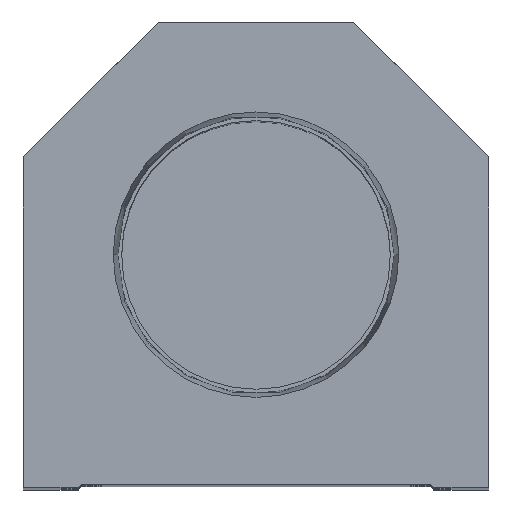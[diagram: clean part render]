
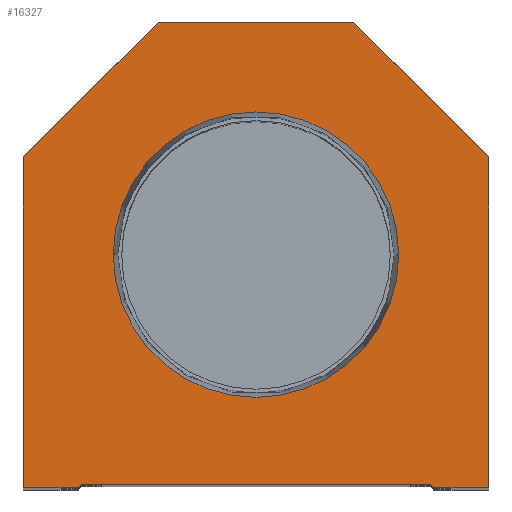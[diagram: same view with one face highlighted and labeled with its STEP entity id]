
A CAD part, top view. The second image highlights one B-rep face of the part: STEP entity #16327.
In plain terms, the highlighted planar face has unit normal (0, 0, 1).
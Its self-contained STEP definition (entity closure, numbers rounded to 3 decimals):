
#565 = VECTOR ( 'NONE', #6724, 1000. ) ;
#571 = CARTESIAN_POINT ( 'NONE',  ( 16., 76.2, 0. ) ) ;
#836 = VERTEX_POINT ( 'NONE', #12668 ) ;
#1529 = PLANE ( 'NONE',  #17201 ) ;
#1731 = CARTESIAN_POINT ( 'NONE',  ( -23.374, 38.1, 0. ) ) ;
#1786 = CIRCLE ( 'NONE', #12279, 23.374 ) ;
#2023 = LINE ( 'NONE', #14274, #6292 ) ;
#2061 = VERTEX_POINT ( 'NONE', #3833 ) ;
#2229 = VECTOR ( 'NONE', #13059, 1000. ) ;
#2346 = EDGE_LOOP ( 'NONE', ( #11622, #8113, #19378, #14553, #8327, #17522, #16108, #6403, #12184, #7951 ) ) ;
#2375 = CARTESIAN_POINT ( 'NONE',  ( -38.1, 0., 0. ) ) ;
#2903 = DIRECTION ( 'NONE',  ( -0.707, 0.707, 0. ) ) ;
#3142 = EDGE_LOOP ( 'NONE', ( #16844, #6453 ) ) ;
#3491 = CARTESIAN_POINT ( 'NONE',  ( 29.1, 0., 0. ) ) ;
#3510 = VERTEX_POINT ( 'NONE', #5880 ) ;
#3833 = CARTESIAN_POINT ( 'NONE',  ( -29.1, 0., 0. ) ) ;
#4896 = VERTEX_POINT ( 'NONE', #14925 ) ;
#5055 = DIRECTION ( 'NONE',  ( 1., 0., 0. ) ) ;
#5122 = CARTESIAN_POINT ( 'NONE',  ( -28.6, 0.5, 0. ) ) ;
#5644 = CARTESIAN_POINT ( 'NONE',  ( 38.1, 0., 0. ) ) ;
#5665 = CARTESIAN_POINT ( 'NONE',  ( 16., 76.2, 0. ) ) ;
#5779 = EDGE_CURVE ( 'NONE', #16320, #16530, #1786, .T. ) ;
#5828 = LINE ( 'NONE', #7424, #8470 ) ;
#5880 = CARTESIAN_POINT ( 'NONE',  ( -16., 76.2, 0. ) ) ;
#6292 = VECTOR ( 'NONE', #12874, 1000. ) ;
#6368 = DIRECTION ( 'NONE',  ( 0., 0., 1. ) ) ;
#6403 = ORIENTED_EDGE ( 'NONE', *, *, #12240, .T. ) ;
#6453 = ORIENTED_EDGE ( 'NONE', *, *, #5779, .F. ) ;
#6594 = VECTOR ( 'NONE', #14675, 1000. ) ;
#6668 = EDGE_CURVE ( 'NONE', #3510, #12435, #16423, .T. ) ;
#6724 = DIRECTION ( 'NONE',  ( -1., 0., 0. ) ) ;
#6740 = VECTOR ( 'NONE', #2903, 1000. ) ;
#6821 = LINE ( 'NONE', #571, #565 ) ;
#7424 = CARTESIAN_POINT ( 'NONE',  ( 28.6, 0., 0. ) ) ;
#7517 = CARTESIAN_POINT ( 'NONE',  ( 38.1, 54.1, 0. ) ) ;
#7833 = CARTESIAN_POINT ( 'NONE',  ( 0., 38.1, 0. ) ) ;
#7951 = ORIENTED_EDGE ( 'NONE', *, *, #19575, .T. ) ;
#8113 = ORIENTED_EDGE ( 'NONE', *, *, #13406, .T. ) ;
#8155 = VERTEX_POINT ( 'NONE', #5665 ) ;
#8327 = ORIENTED_EDGE ( 'NONE', *, *, #8757, .T. ) ;
#8470 = VECTOR ( 'NONE', #13452, 1000. ) ;
#8757 = EDGE_CURVE ( 'NONE', #18947, #4896, #5828, .T. ) ;
#9283 = EDGE_CURVE ( 'NONE', #4896, #19869, #17799, .T. ) ;
#9705 = LINE ( 'NONE', #5122, #12663 ) ;
#9880 = LINE ( 'NONE', #13008, #19778 ) ;
#9929 = EDGE_CURVE ( 'NONE', #836, #18947, #2023, .T. ) ;
#10482 = EDGE_CURVE ( 'NONE', #15908, #2061, #9880, .T. ) ;
#10864 = DIRECTION ( 'NONE',  ( 0., 0., 1. ) ) ;
#11384 = DIRECTION ( 'NONE',  ( 0.707, 0.707, 0. ) ) ;
#11622 = ORIENTED_EDGE ( 'NONE', *, *, #10482, .T. ) ;
#11882 = CARTESIAN_POINT ( 'NONE',  ( -38.1, 54.1, 0. ) ) ;
#11972 = CARTESIAN_POINT ( 'NONE',  ( 0., 38.1, 0. ) ) ;
#12184 = ORIENTED_EDGE ( 'NONE', *, *, #6668, .T. ) ;
#12240 = EDGE_CURVE ( 'NONE', #8155, #3510, #6821, .T. ) ;
#12279 = AXIS2_PLACEMENT_3D ( 'NONE', #7833, #6368, #5055 ) ;
#12333 = CARTESIAN_POINT ( 'NONE',  ( 38.1, 54.1, 0. ) ) ;
#12372 = FACE_BOUND ( 'NONE', #3142, .T. ) ;
#12435 = VERTEX_POINT ( 'NONE', #12815 ) ;
#12466 = DIRECTION ( 'NONE',  ( 1., 0., 0. ) ) ;
#12663 = VECTOR ( 'NONE', #12945, 1000. ) ;
#12668 = CARTESIAN_POINT ( 'NONE',  ( 28.6, 0.5, 0. ) ) ;
#12815 = CARTESIAN_POINT ( 'NONE',  ( -38.1, 54.1, 0. ) ) ;
#12874 = DIRECTION ( 'NONE',  ( 0.707, -0.707, 0. ) ) ;
#12899 = CARTESIAN_POINT ( 'NONE',  ( -14.55, 14.55, 0. ) ) ;
#12945 = DIRECTION ( 'NONE',  ( 1., 0., 0. ) ) ;
#13008 = CARTESIAN_POINT ( 'NONE',  ( -28.6, 0., 0. ) ) ;
#13059 = DIRECTION ( 'NONE',  ( 0., -1., 0. ) ) ;
#13162 = CARTESIAN_POINT ( 'NONE',  ( -38.1, 0., 0. ) ) ;
#13202 = CARTESIAN_POINT ( 'NONE',  ( -28.6, 0.5, 0. ) ) ;
#13406 = EDGE_CURVE ( 'NONE', #2061, #18017, #19334, .T. ) ;
#13452 = DIRECTION ( 'NONE',  ( 1., 0., 0. ) ) ;
#13625 = CIRCLE ( 'NONE', #13931, 23.374 ) ;
#13931 = AXIS2_PLACEMENT_3D ( 'NONE', #11972, #19519, #15096 ) ;
#14274 = CARTESIAN_POINT ( 'NONE',  ( 14.55, 14.55, 0. ) ) ;
#14553 = ORIENTED_EDGE ( 'NONE', *, *, #9929, .T. ) ;
#14675 = DIRECTION ( 'NONE',  ( 0., 1., 0. ) ) ;
#14821 = EDGE_CURVE ( 'NONE', #16530, #16320, #13625, .T. ) ;
#14893 = CARTESIAN_POINT ( 'NONE',  ( 23.374, 38.1, 0. ) ) ;
#14925 = CARTESIAN_POINT ( 'NONE',  ( 38.1, 0., 0. ) ) ;
#15096 = DIRECTION ( 'NONE',  ( 1., 0., 0. ) ) ;
#15122 = EDGE_CURVE ( 'NONE', #18017, #836, #9705, .T. ) ;
#15908 = VERTEX_POINT ( 'NONE', #2375 ) ;
#16108 = ORIENTED_EDGE ( 'NONE', *, *, #19841, .T. ) ;
#16320 = VERTEX_POINT ( 'NONE', #1731 ) ;
#16327 = ADVANCED_FACE ( 'NONE', ( #12372, #19897 ), #1529, .T. ) ;
#16423 = LINE ( 'NONE', #11882, #19359 ) ;
#16530 = VERTEX_POINT ( 'NONE', #14893 ) ;
#16767 = LINE ( 'NONE', #7517, #6740 ) ;
#16786 = DIRECTION ( 'NONE',  ( -0.707, -0.707, 0. ) ) ;
#16844 = ORIENTED_EDGE ( 'NONE', *, *, #14821, .F. ) ;
#17001 = VECTOR ( 'NONE', #11384, 1000. ) ;
#17201 = AXIS2_PLACEMENT_3D ( 'NONE', #18529, #10864, #12466 ) ;
#17522 = ORIENTED_EDGE ( 'NONE', *, *, #9283, .T. ) ;
#17792 = LINE ( 'NONE', #13162, #2229 ) ;
#17799 = LINE ( 'NONE', #5644, #6594 ) ;
#18017 = VERTEX_POINT ( 'NONE', #13202 ) ;
#18529 = CARTESIAN_POINT ( 'NONE',  ( 0., 0., 0. ) ) ;
#18947 = VERTEX_POINT ( 'NONE', #3491 ) ;
#19139 = DIRECTION ( 'NONE',  ( 1., 0., 0. ) ) ;
#19334 = LINE ( 'NONE', #12899, #17001 ) ;
#19359 = VECTOR ( 'NONE', #16786, 1000. ) ;
#19378 = ORIENTED_EDGE ( 'NONE', *, *, #15122, .T. ) ;
#19519 = DIRECTION ( 'NONE',  ( 0., 0., 1. ) ) ;
#19575 = EDGE_CURVE ( 'NONE', #12435, #15908, #17792, .T. ) ;
#19778 = VECTOR ( 'NONE', #19139, 1000. ) ;
#19841 = EDGE_CURVE ( 'NONE', #19869, #8155, #16767, .T. ) ;
#19869 = VERTEX_POINT ( 'NONE', #12333 ) ;
#19897 = FACE_OUTER_BOUND ( 'NONE', #2346, .T. ) ;
